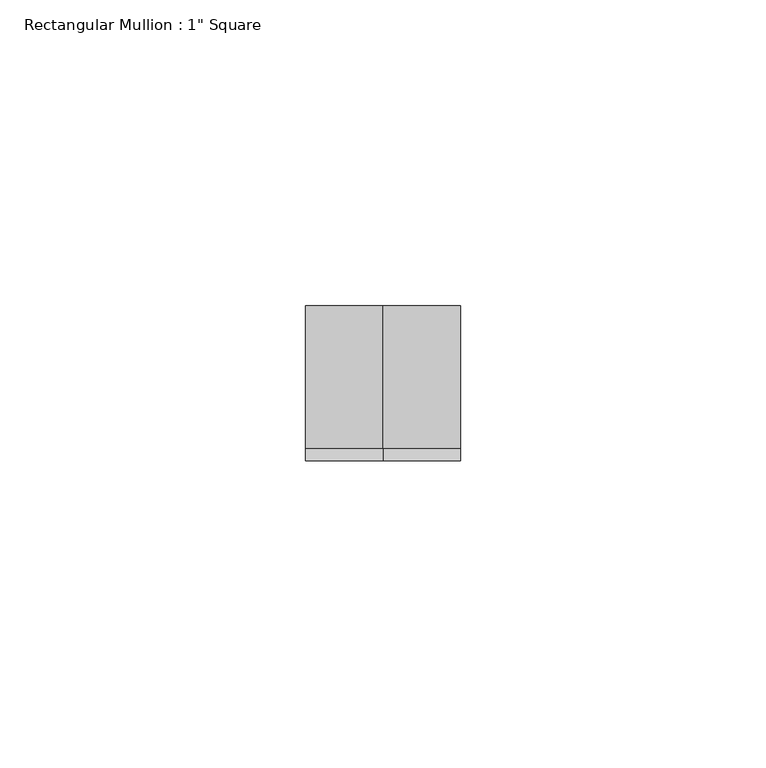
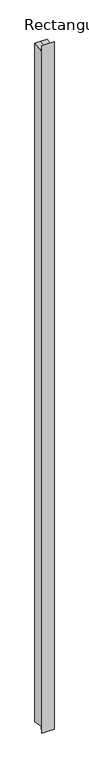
"""IFC4 building model written with IfcOpenShell, lengths in millimetres: member geometry."""

from ifc_helpers import new_model, si_unit, origin, place, context, project, spatial, faceted_brep, source, transform, mapped, element, save


def member_309acb9e(model_context):
    return source(origin(), model_context, "Body", "Brep", [
        faceted_brep([(-12.7, 12.7, 1.7713295), (0.0, 12.7, 1.7713295), (12.7, 12.7, 1.7713295), (12.7, 12.7, -1500.3713295), (0.0, 12.7, -1500.3713295), (-12.7, 12.7, -1500.3713295), (-12.7, -12.7, 11.7479412), (-12.7, -10.6645783, -1.7515317), (-12.7, -10.6645783, -1496.8484683), (-12.7, -12.7, -1510.3479412), (12.7, -12.7, 11.7479412), (0.0, -12.7, 11.7479412), (0.0, -12.7, -1510.3479412), (12.7, -12.7, -1510.3479412), (12.7, -10.6645783, -1.7515317), (12.7, -10.6645783, -1496.8484683), (0.0, -10.6645783, -1.7515317), (0.0, -10.6645783, -1496.8484683)], [[[0, 1, 2, 3, 4, 5]], [[6, 7, 0, 5, 8, 9]], [[10, 11, 6, 9, 12, 13]], [[2, 14, 10, 13, 15, 3]], [[2, 1, 16, 14]], [[1, 0, 7, 16]], [[7, 6, 11, 16]], [[11, 10, 14, 16]], [[3, 15, 17, 4]], [[15, 13, 12, 17]], [[12, 9, 8, 17]], [[8, 5, 4, 17]]]),
    ])


if __name__ == "__main__":
    model = new_model("IFC4")
    model_context = context("Model", 3, world=origin())
    ifc_project = project(units=[si_unit("LENGTHUNIT", "METRE", prefix="MILLI")], contexts=[model_context])
    site = spatial("IfcSite", under=ifc_project)
    building = spatial("IfcBuilding", under=site)
    placement = place(None, origin())
    member_shape = member_309acb9e(model_context)
    element("IfcMember", 1, ObjectType="Rectangular Mullion : 1\" Square", at=placement, inside=building, context=model_context, shape_type="MappedRepresentation", body=[
        mapped(member_shape, transform((0.0, 0.0, 0.0), x_axis=(1.0, 0.0, 0.0), y_axis=(0.0, 1.0, 0.0), z_axis=(0.0, 0.0, 1.0))),
    ])
    save(model, "model.ifc")
